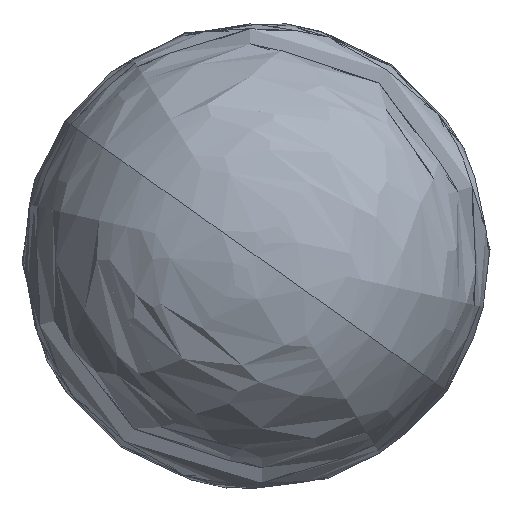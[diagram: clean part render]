
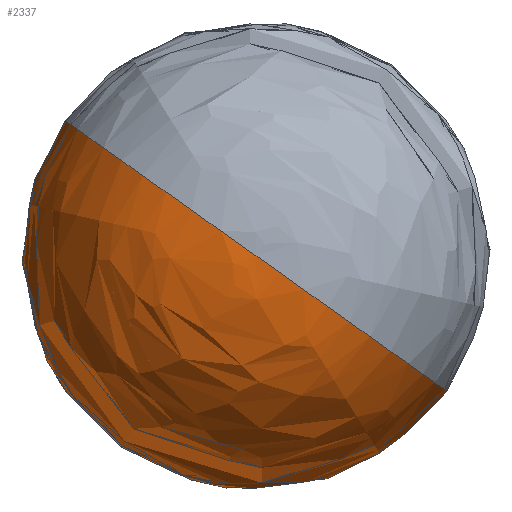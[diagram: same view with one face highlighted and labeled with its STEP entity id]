
A CAD part, front view. The second image highlights one B-rep face of the part: STEP entity #2337.
In plain terms, the highlighted free-form (B-spline) face has degree [3, 3] with [8, 4] control points.
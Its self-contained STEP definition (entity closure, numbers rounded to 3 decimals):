
#153 = CARTESIAN_POINT ( 'NONE',  ( 0., -946.404, 0. ) ) ;
#175 = CARTESIAN_POINT ( 'NONE',  ( 53.523, -927.847, -37.933 ) ) ;
#228 = AXIS2_PLACEMENT_3D ( 'NONE', #2100, #2076, #2030 ) ;
#451 = ORIENTED_EDGE ( 'NONE', *, *, #5233, .T. ) ;
#453 = CARTESIAN_POINT ( 'NONE',  ( -22.342, -927.847, -144.979 ) ) ;
#456 = CARTESIAN_POINT ( 'NONE',  ( -66.931, -860.493, 47.435 ) ) ;
#477 = CARTESIAN_POINT ( 'NONE',  ( 0., -946.404, 0. ) ) ;
#488 = CARTESIAN_POINT ( 'NONE',  ( 14.278, -296.404, -10.119 ) ) ;
#780 = CARTESIAN_POINT ( 'NONE',  ( 14.278, -296.404, -10.119 ) ) ;
#810 = CARTESIAN_POINT ( 'NONE',  ( -5.96, -296.404, -38.675 ) ) ;
#823 = CARTESIAN_POINT ( 'NONE',  ( -34.516, -296.404, -18.437 ) ) ;
#854 = CARTESIAN_POINT ( 'NONE',  ( -5.96, -608.589, -38.675 ) ) ;
#885 = CARTESIAN_POINT ( 'NONE',  ( 14.278, -608.589, -10.119 ) ) ;
#918 = CARTESIAN_POINT ( 'NONE',  ( -14.278, -296.404, 10.119 ) ) ;
#928 = CARTESIAN_POINT ( 'NONE',  ( 48.083, -672.477, -34.077 ) ) ;
#939 = CARTESIAN_POINT ( 'NONE',  ( -14.278, -608.589, 10.119 ) ) ;
#952 = CARTESIAN_POINT ( 'NONE',  ( -34.516, -608.589, -18.437 ) ) ;
#958 = CARTESIAN_POINT ( 'NONE',  ( -48.083, -672.477, 34.077 ) ) ;
#960 = CARTESIAN_POINT ( 'NONE',  ( -116.237, -672.477, -62.089 ) ) ;
#983 = CARTESIAN_POINT ( 'NONE',  ( -20.071, -672.477, -130.243 ) ) ;
#1008 =( BOUNDED_SURFACE ( )  B_SPLINE_SURFACE ( 3, 3, ( 
 ( #153, #477, #2769, #2836 ),
 ( #3624, #2762, #3646, #3649 ),
 ( #8587, #3680, #453, #175 ),
 ( #456, #1070, #2645, #1185 ),
 ( #1727, #1290, #1058, #1052 ),
 ( #958, #960, #983, #928 ),
 ( #939, #952, #854, #885 ),
 ( #918, #823, #810, #780 ) ),
 .UNSPECIFIED., .F., .F., .T. ) 
 B_SPLINE_SURFACE_WITH_KNOTS ( ( 4, 1, 1, 1, 1, 4 ),
 ( 4, 4 ),
 ( 0., 0.225, 0.267, 0.403, 0.478, 1. ),
 ( 0., 1. ),
 .UNSPECIFIED. ) 
 GEOMETRIC_REPRESENTATION_ITEM ( )  RATIONAL_B_SPLINE_SURFACE ( (
 ( 1., 0.333, 0.333, 1.),
 ( 1., 0.333, 0.333, 1.),
 ( 1., 0.333, 0.333, 1.),
 ( 1., 0.333, 0.333, 1.),
 ( 1., 0.333, 0.333, 1.),
 ( 1., 0.333, 0.333, 1.),
 ( 1., 0.333, 0.333, 1.),
 ( 1., 0.333, 0.333, 1.) ) ) 
 REPRESENTATION_ITEM ( '' )  SURFACE ( )  );
#1052 = CARTESIAN_POINT ( 'NONE',  ( 64.756, -807.968, -45.893 ) ) ;
#1058 = CARTESIAN_POINT ( 'NONE',  ( -27.031, -807.968, -175.405 ) ) ;
#1070 = CARTESIAN_POINT ( 'NONE',  ( -161.802, -860.493, -86.427 ) ) ;
#1185 = CARTESIAN_POINT ( 'NONE',  ( 66.931, -860.493, -47.435 ) ) ;
#1290 = CARTESIAN_POINT ( 'NONE',  ( -156.543, -807.968, -83.618 ) ) ;
#1490 = B_SPLINE_CURVE_WITH_KNOTS ( 'NONE', 3,
 ( #5504, #7347, #2475, #2866, #2439, #3158, #8798, #1619 ),
 .UNSPECIFIED., .F., .F.,
 ( 4, 1, 1, 1, 1, 4 ),
 ( 0., 0.522, 0.597, 0.733, 0.775, 1. ),
 .UNSPECIFIED. ) ;
#1619 = CARTESIAN_POINT ( 'NONE',  ( 0., -946.404, 0. ) ) ;
#1727 = CARTESIAN_POINT ( 'NONE',  ( -64.756, -807.968, 45.893 ) ) ;
#1951 = CIRCLE ( 'NONE', #228, 17.5 ) ;
#2030 = DIRECTION ( 'NONE',  ( -0.578, 0., -0.816 ) ) ;
#2076 = DIRECTION ( 'NONE',  ( 0., 1., 0. ) ) ;
#2100 = CARTESIAN_POINT ( 'NONE',  ( 0., -296.404, 0. ) ) ;
#2337 = ADVANCED_FACE ( 'NONE', ( #4746 ), #1008, .T. ) ;
#2439 = CARTESIAN_POINT ( 'NONE',  ( 66.931, -860.493, -47.435 ) ) ;
#2475 = CARTESIAN_POINT ( 'NONE',  ( 48.083, -672.477, -34.077 ) ) ;
#2556 = ORIENTED_EDGE ( 'NONE', *, *, #7813, .F. ) ;
#2645 = CARTESIAN_POINT ( 'NONE',  ( -27.939, -860.493, -181.298 ) ) ;
#2762 = CARTESIAN_POINT ( 'NONE',  ( -61.323, -946.404, -32.756 ) ) ;
#2769 = CARTESIAN_POINT ( 'NONE',  ( 0., -946.404, 0. ) ) ;
#2836 = CARTESIAN_POINT ( 'NONE',  ( 0., -946.404, 0. ) ) ;
#2866 = CARTESIAN_POINT ( 'NONE',  ( 64.756, -807.968, -45.893 ) ) ;
#3001 = CARTESIAN_POINT ( 'NONE',  ( 0., -296.404, -17.5 ) ) ;
#3158 = CARTESIAN_POINT ( 'NONE',  ( 53.523, -927.847, -37.933 ) ) ;
#3624 = CARTESIAN_POINT ( 'NONE',  ( -25.367, -946.404, 17.978 ) ) ;
#3646 = CARTESIAN_POINT ( 'NONE',  ( -10.589, -946.404, -68.711 ) ) ;
#3649 = CARTESIAN_POINT ( 'NONE',  ( 25.367, -946.404, -17.978 ) ) ;
#3680 = CARTESIAN_POINT ( 'NONE',  ( -129.389, -927.847, -69.114 ) ) ;
#3749 = VERTEX_POINT ( 'NONE', #3001 ) ;
#3812 = EDGE_CURVE ( 'NONE', #3749, #5844, #1951, .T. ) ;
#4132 = EDGE_CURVE ( 'NONE', #5192, #5844, #5767, .T. ) ;
#4423 = CIRCLE ( 'NONE', #7523, 17.5 ) ;
#4440 = EDGE_LOOP ( 'NONE', ( #6678, #5462, #2556, #451 ) ) ;
#4503 = VERTEX_POINT ( 'NONE', #488 ) ;
#4746 = FACE_OUTER_BOUND ( 'NONE', #4440, .T. ) ;
#5192 = VERTEX_POINT ( 'NONE', #7905 ) ;
#5233 = EDGE_CURVE ( 'NONE', #4503, #5192, #1490, .T. ) ;
#5462 = ORIENTED_EDGE ( 'NONE', *, *, #3812, .F. ) ;
#5504 = CARTESIAN_POINT ( 'NONE',  ( 14.278, -296.404, -10.119 ) ) ;
#5767 = B_SPLINE_CURVE_WITH_KNOTS ( 'NONE', 3,
 ( #6972, #8335, #8458, #6960, #6684, #6709, #6691, #6752 ),
 .UNSPECIFIED., .F., .F.,
 ( 4, 1, 1, 1, 1, 4 ),
 ( 0., 0.225, 0.267, 0.403, 0.478, 1. ),
 .UNSPECIFIED. ) ;
#5844 = VERTEX_POINT ( 'NONE', #6802 ) ;
#6678 = ORIENTED_EDGE ( 'NONE', *, *, #4132, .T. ) ;
#6684 = CARTESIAN_POINT ( 'NONE',  ( -64.756, -807.968, 45.893 ) ) ;
#6691 = CARTESIAN_POINT ( 'NONE',  ( -14.278, -608.589, 10.119 ) ) ;
#6709 = CARTESIAN_POINT ( 'NONE',  ( -48.083, -672.477, 34.077 ) ) ;
#6752 = CARTESIAN_POINT ( 'NONE',  ( -14.278, -296.404, 10.119 ) ) ;
#6802 = CARTESIAN_POINT ( 'NONE',  ( -14.278, -296.404, 10.119 ) ) ;
#6960 = CARTESIAN_POINT ( 'NONE',  ( -66.931, -860.493, 47.435 ) ) ;
#6972 = CARTESIAN_POINT ( 'NONE',  ( 0., -946.404, 0. ) ) ;
#7200 = DIRECTION ( 'NONE',  ( -0.578, 0., -0.816 ) ) ;
#7245 = DIRECTION ( 'NONE',  ( 0., 1., 0. ) ) ;
#7252 = CARTESIAN_POINT ( 'NONE',  ( 0., -296.404, 0. ) ) ;
#7347 = CARTESIAN_POINT ( 'NONE',  ( 14.278, -608.589, -10.119 ) ) ;
#7523 = AXIS2_PLACEMENT_3D ( 'NONE', #7252, #7245, #7200 ) ;
#7813 = EDGE_CURVE ( 'NONE', #4503, #3749, #4423, .T. ) ;
#7905 = CARTESIAN_POINT ( 'NONE',  ( 0., -946.404, 0. ) ) ;
#8335 = CARTESIAN_POINT ( 'NONE',  ( -25.367, -946.404, 17.978 ) ) ;
#8458 = CARTESIAN_POINT ( 'NONE',  ( -53.523, -927.847, 37.933 ) ) ;
#8587 = CARTESIAN_POINT ( 'NONE',  ( -53.523, -927.847, 37.933 ) ) ;
#8798 = CARTESIAN_POINT ( 'NONE',  ( 25.367, -946.404, -17.978 ) ) ;
